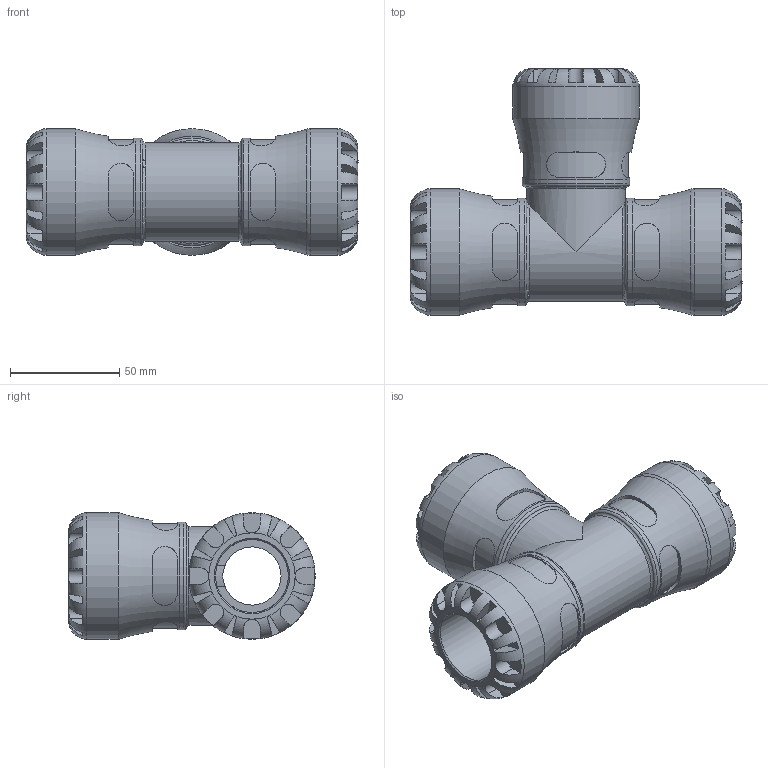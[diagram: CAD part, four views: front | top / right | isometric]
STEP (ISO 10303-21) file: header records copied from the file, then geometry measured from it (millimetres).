
FILE_DESCRIPTION(/* description */ ('PLASSON TEE 1''''IPS SERIES 1'),/* implementation_level */ '2;1');
FILE_NAME(/* name */ 'C:\Dropbox\KIMPROJECTS-Inventor 2019\99-16-3568-Processing Inch\ASTM S1 2021\1004A6\1004A6010.ipt.stp',/* time_stamp */ '2021-09-02T12:00:46+03:00',/* author */ ('KIM'),/* organization */ (''),/* preprocessor_version */ 'ST-DEVELOPER v17.2',/* originating_system */ 'Autodesk Inventor 2019',/* authorisation */ '');
FILE_SCHEMA (('AUTOMOTIVE_DESIGN { 1 0 10303 214 3 1 1 }','FEATURE_BASED_PROCESS_PLANNING'));
Length unit declared in the file: inch
Products named in the file (1): 1004A6010
Bounding box: 151.89 x 112.78 x 57.91 mm (x, y, z)
Volume: 265918.1 mm3; surface area: 65681.4 mm2
Topology: 1 solids, 1 shells, 290 faces, 777 edges, 499 vertices
Faces by surface type: plane 176, cylinder 99, torus 13, cone 2
Full cylindrical faces by diameter (mm): 26.64 x1, 27.75 x1, 33.3 x3, 45.171 x1, 49.225 x3, 57.912 x3
Entity records: 11945 total; most frequent: CARTESIAN_POINT 4556, ORIENTED_EDGE 1554, DIRECTION 1472, EDGE_CURVE 777, AXIS2_PLACEMENT_3D 606, VERTEX_POINT 499, CIRCLE 311, EDGE_LOOP 304
